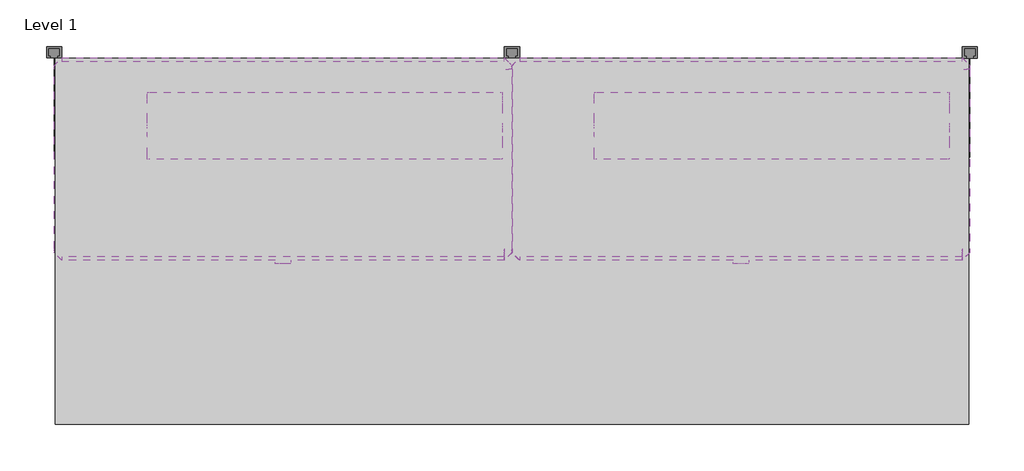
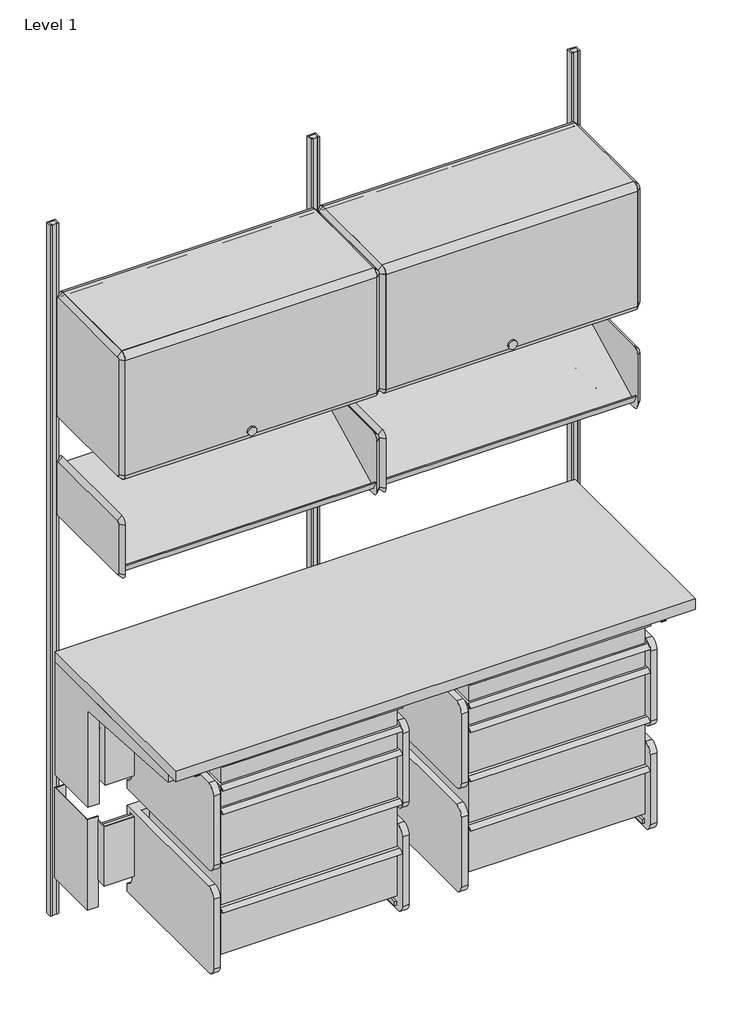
# One storey: 24 furniture elements, 2 light fixtures.
"""IFC4 building model written with IfcOpenShell, lengths in millimetres."""

from ifc_helpers import new_model, si_unit, origin, place, context, project, spatial, transform, mapped, element, save
from components import furniture_30ac351e, furniture_0d5b5ade, furniture_f2a341e6, furniture_e3423f84, furniture_56be9a9d, furniture_df0166ae, furniture_7098341d, furniture_ea425779, a_3_959e08d9, a_3_3943aac6, b_6_f3207868, b_6_2be62e06, b_6_bdab6ed6, light_fixture_b5f3cc62

model = new_model("IFC4")

# Units and contexts
model_context = context("Model", 3, world=origin())
ifc_project = project(units=[si_unit("LENGTHUNIT", "METRE", prefix="MILLI")], contexts=[model_context])

# Site, building, storey
site = spatial("IfcSite", under=ifc_project)
building = spatial("IfcBuilding", under=site)
storey = spatial("IfcBuildingStorey", under=building, Name="Level 1", Elevation=0.0)

# Furniture
placement = place(None, origin())
furniture_shape = furniture_30ac351e(model_context)
element("IfcFurniture", 1, ObjectType="HermanMiller_CoStruc_CO205_CFrame : 10\"H x 17\"D x 22\"W", at=placement, inside=storey, context=model_context, shape_type="MappedRepresentation", body=[
    mapped(furniture_shape, transform((310.5047151, -259.7955597, 0.0), x_axis=(1.0, 0.0, 0.0), y_axis=(0.0, 1.0, 0.0), z_axis=(0.0, 0.0, 1.0))),
])
element("IfcFurniture", 2, ObjectType="HermanMiller_CoStruc_CO205_CFrame : 10\"H x 17\"D x 22\"W", at=placement, inside=storey, context=model_context, shape_type="MappedRepresentation", body=[
    mapped(furniture_shape, transform((1035.1514751, -259.7955597, 0.0), x_axis=(1.0, 0.0, 0.0), y_axis=(0.0, 1.0, 0.0), z_axis=(0.0, 0.0, 1.0))),
])
furniture_2_shape = furniture_0d5b5ade(model_context)
element("IfcFurniture", 3, ObjectType="HermanMiller_ActionOffice_A3352_B-StyleFlipperDoorUnit : 15 1/2\"H x 13\"D x 30\"W", at=placement, inside=storey, context=model_context, shape_type="MappedRepresentation", body=[
    mapped(furniture_2_shape, transform((1143.0, -200.025, 0.0), x_axis=(1.0, 0.0, 0.0), y_axis=(0.0, 1.0, 0.0), z_axis=(0.0, 0.0, 1.0))),
])
element("IfcFurniture", 4, ObjectType="HermanMiller_ActionOffice_A3352_B-StyleFlipperDoorUnit : 15 1/2\"H x 13\"D x 30\"W", at=placement, inside=storey, context=model_context, shape_type="MappedRepresentation", body=[
    mapped(furniture_2_shape, transform((381.0, -200.025, 0.0), x_axis=(1.0, 0.0, 0.0), y_axis=(0.0, 1.0, 0.0), z_axis=(0.0, 0.0, 1.0))),
])
furniture_3_shape = furniture_f2a341e6(model_context)
element("IfcFurniture", 5, ObjectType="HermanMiller_CoStruc_C2141_Heavy-DutyWorkSurface : 24\"D x 60\"W Lam", at=placement, inside=storey, context=model_context, shape_type="MappedRepresentation", body=[
    mapped(furniture_3_shape, transform((304.8, -196.85, 0.0), x_axis=(1.0, 0.0, 0.0), y_axis=(0.0, 1.0, 0.0), z_axis=(0.0, 0.0, 1.0))),
])
furniture_4_shape = furniture_e3423f84(model_context)
element("IfcFurniture", 6, ObjectType="HermanMiller_ActionOffice_A3220_B-StyleStorageDisplay : Display 13\"D x 30\"W", at=placement, inside=storey, context=model_context, shape_type="MappedRepresentation", body=[
    mapped(furniture_4_shape, transform((1266.9420045, -200.025, 0.0), x_axis=(1.0, 0.0, 0.0), y_axis=(0.0, 1.0, 0.0), z_axis=(0.0, 0.0, 1.0))),
])
element("IfcFurniture", 7, ObjectType="HermanMiller_ActionOffice_A3220_B-StyleStorageDisplay : Display 13\"D x 30\"W", at=placement, inside=storey, context=model_context, shape_type="MappedRepresentation", body=[
    mapped(furniture_4_shape, transform((504.9420045, -200.025, 0.0), x_axis=(1.0, 0.0, 0.0), y_axis=(0.0, 1.0, 0.0), z_axis=(0.0, 0.0, 1.0))),
])
furniture_5_shape = furniture_56be9a9d(model_context)
element("IfcFurniture", 8, ObjectType="HermanMiller_CoStruc_CO205_CFrame : 10\"H x 17\"D x 22\"W", at=placement, inside=storey, context=model_context, shape_type="MappedRepresentation", body=[
    mapped(furniture_5_shape, transform((310.5047151, -259.7955597, 0.0), x_axis=(1.0, 0.0, 0.0), y_axis=(0.0, 1.0, 0.0), z_axis=(0.0, 0.0, 1.0))),
])
element("IfcFurniture", 9, ObjectType="HermanMiller_CoStruc_CO205_CFrame : 10\"H x 17\"D x 22\"W", at=placement, inside=storey, context=model_context, shape_type="MappedRepresentation", body=[
    mapped(furniture_5_shape, transform((1035.1514751, -259.7955597, 0.0), x_axis=(1.0, 0.0, 0.0), y_axis=(0.0, 1.0, 0.0), z_axis=(0.0, 0.0, 1.0))),
])
furniture_6_shape = furniture_df0166ae(model_context)
element("IfcFurniture", 10, ObjectType="HermanMiller_CoStruc_C2192_CFrameSupport : 11\"H x 24\"D x 60\"W", at=placement, inside=storey, context=model_context, shape_type="MappedRepresentation", body=[
    mapped(furniture_6_shape, transform((762.0, 107.15625, 0.0), x_axis=(1.0, 0.0, 0.0), y_axis=(0.0, 1.0, 0.0), z_axis=(0.0, 0.0, 1.0))),
])
furniture_7_shape = furniture_7098341d(model_context)
element("IfcFurniture", 11, ObjectType="HermanMiller_CoStruc_C2140W_WorkSurfaceSupport_ComponentAdaptor : 14\"H x 24\"D x 60\"W", at=placement, inside=storey, context=model_context, shape_type="MappedRepresentation", body=[
    mapped(furniture_7_shape, transform((762.0, -196.85, 0.0), x_axis=(1.0, 0.0, 0.0), y_axis=(0.0, 1.0, 0.0), z_axis=(0.0, 0.0, 1.0))),
])
furniture_8_shape = furniture_ea425779(model_context)
element("IfcFurniture", 12, ObjectType="HermanMiller_ActionOffice_AO213_WallStrip : 84\"H", at=placement, inside=storey, context=model_context, shape_type="MappedRepresentation", body=[
    mapped(furniture_8_shape, transform((1524.0, -0.0384625, 0.0), x_axis=(1.0, 0.0, 0.0), y_axis=(0.0, 1.0, 0.0), z_axis=(0.0, 0.0, 1.0))),
])
element("IfcFurniture", 13, ObjectType="HermanMiller_ActionOffice_AO213_WallStrip : 84\"H", at=placement, inside=storey, context=model_context, shape_type="MappedRepresentation", body=[
    mapped(furniture_8_shape, transform((762.0, 0.0, 0.0), x_axis=(1.0, 0.0, 0.0), y_axis=(0.0, 1.0, 0.0), z_axis=(0.0, 0.0, 1.0))),
])
element("IfcFurniture", 14, ObjectType="HermanMiller_ActionOffice_AO213_WallStrip : 84\"H", at=placement, inside=storey, context=model_context, shape_type="MappedRepresentation", body=[
    mapped(furniture_8_shape, transform((0.0, 0.0, 0.0), x_axis=(1.0, 0.0, 0.0), y_axis=(0.0, 1.0, 0.0), z_axis=(0.0, 0.0, 1.0))),
])
a_3_shape = a_3_959e08d9(model_context)
element("IfcFurniture", 15, ObjectType="HermanMiller_CoStruc_CO207_Drawer : A - 3", at=placement, inside=storey, context=model_context, shape_type="MappedRepresentation", body=[
    mapped(a_3_shape, transform((410.1248717, -421.61206, 0.0), x_axis=(1.0, 0.0, 0.0), y_axis=(0.0, 1.0, 0.0), z_axis=(0.0, 0.0, 1.0))),
])
element("IfcFurniture", 16, ObjectType="HermanMiller_CoStruc_CO207_Drawer : A - 3", at=placement, inside=storey, context=model_context, shape_type="MappedRepresentation", body=[
    mapped(a_3_shape, transform((1134.7716317, -421.61206, 0.0), x_axis=(1.0, 0.0, 0.0), y_axis=(0.0, 1.0, 0.0), z_axis=(0.0, 0.0, 1.0))),
])
a_3_2_shape = a_3_3943aac6(model_context)
element("IfcFurniture", 17, ObjectType="HermanMiller_CoStruc_CO207_Drawer : A - 3", at=placement, inside=storey, context=model_context, shape_type="MappedRepresentation", body=[
    mapped(a_3_2_shape, transform((410.1248717, -421.61206, 0.0), x_axis=(1.0, 0.0, 0.0), y_axis=(0.0, 1.0, 0.0), z_axis=(0.0, 0.0, 1.0))),
])
element("IfcFurniture", 18, ObjectType="HermanMiller_CoStruc_CO207_Drawer : A - 3", at=placement, inside=storey, context=model_context, shape_type="MappedRepresentation", body=[
    mapped(a_3_2_shape, transform((1134.7716317, -421.61206, 0.0), x_axis=(1.0, 0.0, 0.0), y_axis=(0.0, 1.0, 0.0), z_axis=(0.0, 0.0, 1.0))),
])
b_6_shape = b_6_f3207868(model_context)
element("IfcFurniture", 19, ObjectType="HermanMiller_CoStruc_CO207_Drawer : B - 6", at=placement, inside=storey, context=model_context, shape_type="MappedRepresentation", body=[
    mapped(b_6_shape, transform((410.1248717, -421.61206, 0.0), x_axis=(1.0, 0.0, 0.0), y_axis=(0.0, 1.0, 0.0), z_axis=(0.0, 0.0, 1.0))),
])
element("IfcFurniture", 20, ObjectType="HermanMiller_CoStruc_CO207_Drawer : B - 6", at=placement, inside=storey, context=model_context, shape_type="MappedRepresentation", body=[
    mapped(b_6_shape, transform((1134.7716317, -421.61206, 0.0), x_axis=(1.0, 0.0, 0.0), y_axis=(0.0, 1.0, 0.0), z_axis=(0.0, 0.0, 1.0))),
])
b_6_2_shape = b_6_2be62e06(model_context)
element("IfcFurniture", 21, ObjectType="HermanMiller_CoStruc_CO207_Drawer : B - 6", at=placement, inside=storey, context=model_context, shape_type="MappedRepresentation", body=[
    mapped(b_6_2_shape, transform((410.1248717, -421.61206, 0.0), x_axis=(1.0, 0.0, 0.0), y_axis=(0.0, 1.0, 0.0), z_axis=(0.0, 0.0, 1.0))),
])
element("IfcFurniture", 22, ObjectType="HermanMiller_CoStruc_CO207_Drawer : B - 6", at=placement, inside=storey, context=model_context, shape_type="MappedRepresentation", body=[
    mapped(b_6_2_shape, transform((1134.7716317, -421.61206, 0.0), x_axis=(1.0, 0.0, 0.0), y_axis=(0.0, 1.0, 0.0), z_axis=(0.0, 0.0, 1.0))),
])
b_6_3_shape = b_6_bdab6ed6(model_context)
element("IfcFurniture", 23, ObjectType="HermanMiller_CoStruc_CO207_Drawer : B - 6", at=placement, inside=storey, context=model_context, shape_type="MappedRepresentation", body=[
    mapped(b_6_3_shape, transform((410.1248717, -421.61206, 0.0), x_axis=(1.0, 0.0, 0.0), y_axis=(0.0, 1.0, 0.0), z_axis=(0.0, 0.0, 1.0))),
])
element("IfcFurniture", 24, ObjectType="HermanMiller_CoStruc_CO207_Drawer : B - 6", at=placement, inside=storey, context=model_context, shape_type="MappedRepresentation", body=[
    mapped(b_6_3_shape, transform((1134.7716317, -421.61206, 0.0), x_axis=(1.0, 0.0, 0.0), y_axis=(0.0, 1.0, 0.0), z_axis=(0.0, 0.0, 1.0))),
])

# Light fixtures
light_fixture_shape = light_fixture_b5f3cc62(model_context)
element("IfcLightFixture", 25, ObjectType="HermanMiller_SupplementalProducts_G6136_UtilityTaskLight : AO Etho Canvas 30W", at=placement, inside=storey, context=model_context, shape_type="MappedRepresentation", body=[
    mapped(light_fixture_shape, transform((1194.63058, -131.7625, 0.0), x_axis=(-1.0, 0.0, 0.0), y_axis=(0.0, -1.0, 0.0), z_axis=(0.0, 0.0, 1.0))),
])
element("IfcLightFixture", 26, ObjectType="HermanMiller_SupplementalProducts_G6136_UtilityTaskLight : AO Etho Canvas 30W", at=placement, inside=storey, context=model_context, shape_type="MappedRepresentation", body=[
    mapped(light_fixture_shape, transform((450.723, -131.7625, 0.0), x_axis=(-1.0, 0.0, 0.0), y_axis=(0.0, -1.0, 0.0), z_axis=(0.0, 0.0, 1.0))),
])

save(model, "model.ifc")
